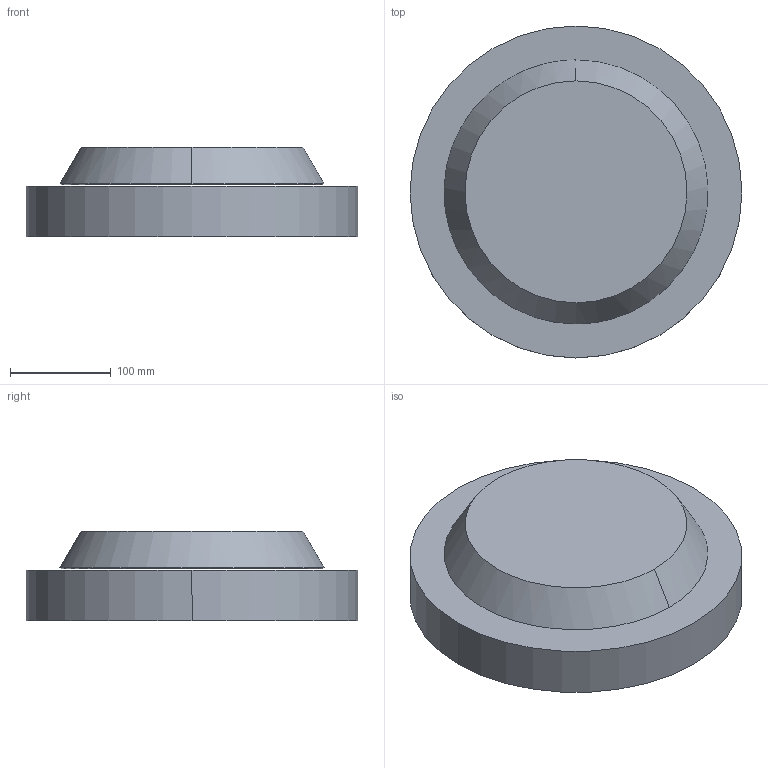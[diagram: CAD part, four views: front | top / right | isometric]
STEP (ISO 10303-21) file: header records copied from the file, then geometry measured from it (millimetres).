
FILE_DESCRIPTION(('Creo Elements/Direct Modeling STEP Export'),'2;1');
FILE_NAME('DISC LED 330 direkt.stp','2016-03-04T12:12:51',(''),(''),'Creo Elements/Direct Modeling STEP processor for AP214 (Solid Model)','Creo Elements/Direct Modeling 18.1A 09-Jun-2012 (C) Parametric Technology GmbH','');
FILE_SCHEMA(('AUTOMOTIVE_DESIGN { 1 0 10303 214 1 1 1 1 }'));
Length unit declared in the file: millimetre
Products named in the file (3): Leuchtenkörper_DISC_LED; Leuchtendeckel_Aluminium_eloxiert_D263_x_37.2_mm_Vx; DISC_LED_330
Assembly tree (2 placements, depth 2):
  DISC_LED_330
    Leuchtendeckel_Aluminium_eloxiert_D263_x_37.2_mm_Vx
    Leuchtenkörper_DISC_LED
Bounding box: 330 x 330 x 88.8 mm (x, y, z)
Volume: 4414446.8 mm3; surface area: 362493.3 mm2
Topology: 2 solids, 2 shells, 12 faces, 26 edges, 18 vertices
Faces by surface type: cone 6, plane 4, cylinder 2
Entity records: 359 total; most frequent: ORIENTED_EDGE 52, DIRECTION 50, CARTESIAN_POINT 47, EDGE_CURVE 26, AXIS2_PLACEMENT_3D 21, VERTEX_POINT 18, EDGE_LOOP 12, FACE_OUTER_BOUND 12
